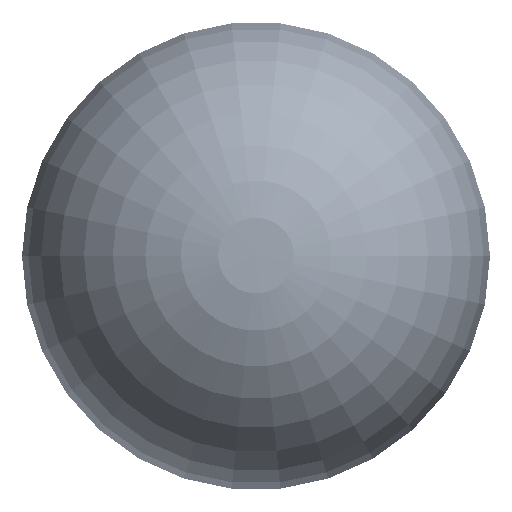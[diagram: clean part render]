
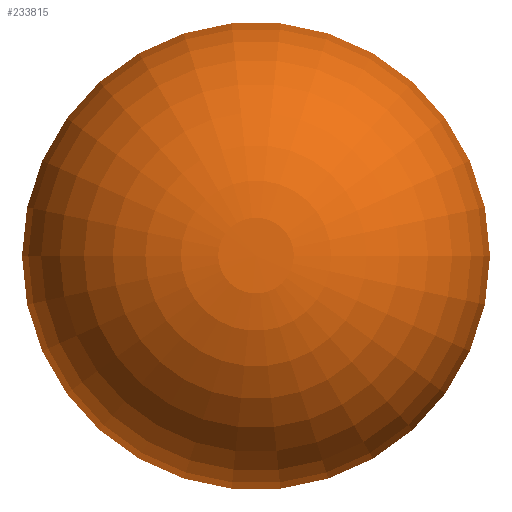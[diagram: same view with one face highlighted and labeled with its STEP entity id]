
A CAD part, top view. The second image highlights one B-rep face of the part: STEP entity #233815.
In plain terms, the highlighted toroidal (fillet/blend) face has major radius 145 mm and minor radius 1925.04 mm.
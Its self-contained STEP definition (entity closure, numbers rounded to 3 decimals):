
#139 = AXIS2_PLACEMENT_3D ( 'NONE', #322631, #206752, #48758 ) ;
#35418 = DIRECTION ( 'NONE',  ( 0., 0., -1. ) ) ;
#48758 = DIRECTION ( 'NONE',  ( 0., 0., 1. ) ) ;
#56519 = CARTESIAN_POINT ( 'NONE',  ( -0.013, 540., -145. ) ) ;
#57665 = CIRCLE ( 'NONE', #158404, 1925.042 ) ;
#71631 = ORIENTED_EDGE ( 'NONE', *, *, #211287, .T. ) ;
#96445 = VERTEX_POINT ( 'NONE', #206718 ) ;
#119158 = DIRECTION ( 'NONE',  ( 0., -1., 0. ) ) ;
#132223 = ORIENTED_EDGE ( 'NONE', *, *, #345485, .F. ) ;
#150911 = CARTESIAN_POINT ( 'NONE',  ( 0., -824.62, 0. ) ) ;
#158404 = AXIS2_PLACEMENT_3D ( 'NONE', #56519, #222266, #377617 ) ;
#173225 = CARTESIAN_POINT ( 'NONE',  ( -0.131, -824.62, -1502.792 ) ) ;
#180325 = AXIS2_PLACEMENT_3D ( 'NONE', #150911, #119158, #311455 ) ;
#188599 = CIRCLE ( 'NONE', #180325, 1502.792 ) ;
#206718 = CARTESIAN_POINT ( 'NONE',  ( 0.131, -824.62, -1502.792 ) ) ;
#206752 = DIRECTION ( 'NONE',  ( -1., 0., 0. ) ) ;
#211287 = EDGE_CURVE ( 'NONE', #474124, #466611, #57665, .T. ) ;
#222266 = DIRECTION ( 'NONE',  ( -1., 0., 0. ) ) ;
#233815 = ADVANCED_FACE ( 'NONE', ( #356531 ), #386693, .T. ) ;
#245655 = EDGE_CURVE ( 'NONE', #96445, #466611, #188599, .T. ) ;
#269406 = ORIENTED_EDGE ( 'NONE', *, *, #245655, .F. ) ;
#286080 = AXIS2_PLACEMENT_3D ( 'NONE', #477716, #475115, #35418 ) ;
#311220 = CIRCLE ( 'NONE', #139, 1925.042 ) ;
#311455 = DIRECTION ( 'NONE',  ( 0., 0., -1. ) ) ;
#322631 = CARTESIAN_POINT ( 'NONE',  ( 0.013, 540., -145. ) ) ;
#345485 = EDGE_CURVE ( 'NONE', #474124, #96445, #311220, .T. ) ;
#356531 = FACE_OUTER_BOUND ( 'NONE', #492468, .T. ) ;
#364380 = CARTESIAN_POINT ( 'NONE',  ( 0., 2459.574, 0. ) ) ;
#377617 = DIRECTION ( 'NONE',  ( 0., 0., 1. ) ) ;
#386693 = TOROIDAL_SURFACE ( 'NONE', #286080, 145., 1925.042 ) ;
#466611 = VERTEX_POINT ( 'NONE', #173225 ) ;
#474124 = VERTEX_POINT ( 'NONE', #364380 ) ;
#475115 = DIRECTION ( 'NONE',  ( 0., -1., 0. ) ) ;
#477716 = CARTESIAN_POINT ( 'NONE',  ( 0., 540., 0. ) ) ;
#492468 = EDGE_LOOP ( 'NONE', ( #269406, #132223, #71631 ) ) ;
